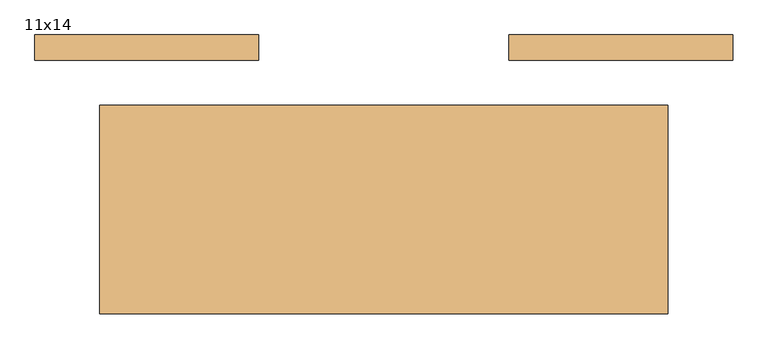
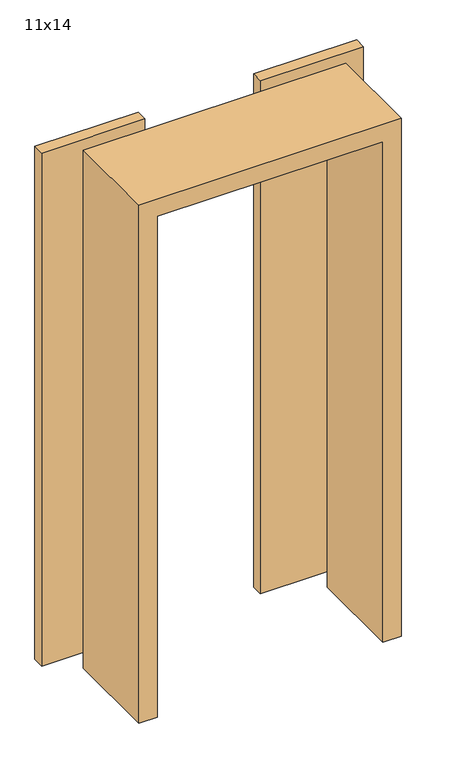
"""IFC4 building model written with IfcOpenShell, lengths in millimetres: door geometry, Hiss : 11x14."""

from ifc_helpers import new_model, si_unit, frame, origin, origin_with_axes, place, context, project, spatial, polyline, outline, extrude, source, transform, mapped, element, save


def door_11x14_eecd2c83(model_context):
    return source(origin(), model_context, "Body", "SweptSolid", [
        extrude(outline(polyline([(-134.4036877, 310.0), (-134.4036877, 265.0), (-531.9036877, 265.0), (-531.9036877, 310.0), (-134.4036877, 310.0)])), origin_with_axes(), (0.0, 0.0, 1.0), 2090.0),
        extrude(outline(polyline([(310.5963123, 310.0), (708.0963123, 310.0), (708.0963123, 265.0), (310.5963123, 265.0), (310.5963123, 310.0)])), origin_with_axes(), (0.0, 0.0, 1.0), 2090.0),
        extrude(outline(polyline([(2110.0, -416.9036877), (0.0, -416.9036877), (0.0, -346.9036877), (2040.0, -346.9036877), (2040.0, 523.0963123), (0.0, 523.0963123), (0.0, 593.0963123), (2110.0, 593.0963123), (2110.0, -416.9036877)])), frame((0.0, -185.0, 0.0), z_axis=(0.0, 1.0, 0.0), x_axis=(0.0, 0.0, 1.0)), (0.0, 0.0, 1.0), 370.0),
    ])


if __name__ == "__main__":
    model = new_model("IFC4")
    model_context = context("Model", 3, world=origin())
    ifc_project = project(units=[si_unit("LENGTHUNIT", "METRE", prefix="MILLI")], contexts=[model_context])
    site = spatial("IfcSite", under=ifc_project)
    building = spatial("IfcBuilding", under=site)
    placement = place(None, origin())
    door_11x14_shape = door_11x14_eecd2c83(model_context)
    element("IfcDoor", 1, ObjectType="Hiss : 11x14", at=placement, inside=building, context=model_context, shape_type="MappedRepresentation", body=[
        mapped(door_11x14_shape, transform((0.0, 0.0, 0.0), x_axis=(1.0, 0.0, 0.0), y_axis=(0.0, 1.0, 0.0), z_axis=(0.0, 0.0, 1.0))),
    ])
    save(model, "model.ifc")
